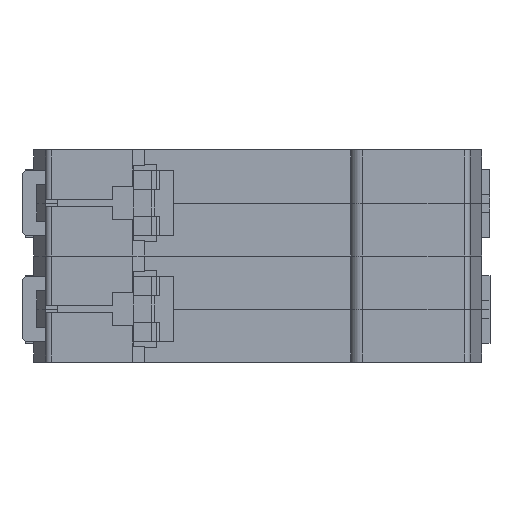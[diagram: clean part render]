
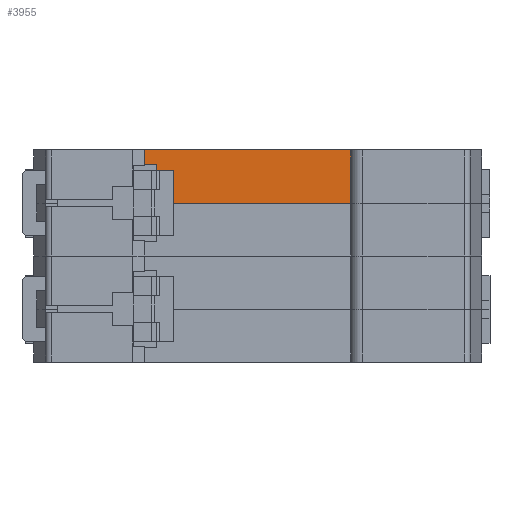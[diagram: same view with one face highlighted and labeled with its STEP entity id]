
A CAD part, front view. The second image highlights one B-rep face of the part: STEP entity #3955.
In plain terms, the highlighted planar face has unit normal (0, -1, 0).
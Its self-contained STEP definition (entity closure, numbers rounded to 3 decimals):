
#3883 = ORIENTED_EDGE ( 'NONE', *, *, #3885, .F. ) ;
#3885 = EDGE_CURVE ( 'NONE', #3960, #3975, #15126, .T. ) ;
#3945 = VERTEX_POINT ( 'NONE', #15179 ) ;
#3948 = EDGE_CURVE ( 'NONE', #19160, #3945, #15177, .T. ) ;
#3955 = ADVANCED_FACE ( 'NONE', ( #15173 ), #15178, .T. ) ;
#3956 = EDGE_LOOP ( 'NONE', ( #3957, #3962, #3964, #3967, #3970, #3883 ) ) ;
#3957 = ORIENTED_EDGE ( 'NONE', *, *, #3958, .F. ) ;
#3958 = EDGE_CURVE ( 'NONE', #19072, #3960, #15232, .T. ) ;
#3960 = VERTEX_POINT ( 'NONE', #15228 ) ;
#3962 = ORIENTED_EDGE ( 'NONE', *, *, #19071, .T. ) ;
#3964 = ORIENTED_EDGE ( 'NONE', *, *, #3948, .T. ) ;
#3967 = ORIENTED_EDGE ( 'NONE', *, *, #3968, .F. ) ;
#3968 = EDGE_CURVE ( 'NONE', #3969, #3945, #15227, .T. ) ;
#3969 = VERTEX_POINT ( 'NONE', #15223 ) ;
#3970 = ORIENTED_EDGE ( 'NONE', *, *, #3972, .F. ) ;
#3972 = EDGE_CURVE ( 'NONE', #3975, #3969, #15222, .T. ) ;
#3975 = VERTEX_POINT ( 'NONE', #15218 ) ;
#9598 = LINE ( 'NONE', #9714, #9713 ) ;
#9710 = CARTESIAN_POINT ( 'NONE',  ( -17.45, 0., -9.2 ) ) ;
#9712 = DIRECTION ( 'NONE',  ( 1., 0., 0. ) ) ;
#9713 = VECTOR ( 'NONE', #9712, 1000. ) ;
#9714 = CARTESIAN_POINT ( 'NONE',  ( -19.45, 0., -9.2 ) ) ;
#10018 = CARTESIAN_POINT ( 'NONE',  ( 17.35, 0., -9.2 ) ) ;
#15123 = DIRECTION ( 'NONE',  ( -1., 0., 0. ) ) ;
#15124 = VECTOR ( 'NONE', #15123, 1000. ) ;
#15125 = CARTESIAN_POINT ( 'NONE',  ( -19.45, 0., -2.5 ) ) ;
#15126 = LINE ( 'NONE', #15125, #15124 ) ;
#15173 = FACE_OUTER_BOUND ( 'NONE', #3956, .T. ) ;
#15174 = DIRECTION ( 'NONE',  ( 0., 0., 1. ) ) ;
#15175 = VECTOR ( 'NONE', #15174, 1000. ) ;
#15176 = CARTESIAN_POINT ( 'NONE',  ( 17.35, 0., -9.2 ) ) ;
#15177 = LINE ( 'NONE', #15176, #15175 ) ;
#15178 = PLANE ( 'NONE',  #15236 ) ;
#15179 = CARTESIAN_POINT ( 'NONE',  ( 17.35, 0., 0. ) ) ;
#15218 = CARTESIAN_POINT ( 'NONE',  ( -19.45, 0., -2.5 ) ) ;
#15219 = DIRECTION ( 'NONE',  ( 0., 0., 1. ) ) ;
#15220 = VECTOR ( 'NONE', #15219, 1000. ) ;
#15221 = CARTESIAN_POINT ( 'NONE',  ( -19.45, 0., -9.2 ) ) ;
#15222 = LINE ( 'NONE', #15221, #15220 ) ;
#15223 = CARTESIAN_POINT ( 'NONE',  ( -19.45, 0., 0. ) ) ;
#15224 = DIRECTION ( 'NONE',  ( 1., 0., 0. ) ) ;
#15225 = VECTOR ( 'NONE', #15224, 1000. ) ;
#15226 = CARTESIAN_POINT ( 'NONE',  ( -19.45, 0., 0. ) ) ;
#15227 = LINE ( 'NONE', #15226, #15225 ) ;
#15228 = CARTESIAN_POINT ( 'NONE',  ( -17.45, 0., -2.5 ) ) ;
#15229 = DIRECTION ( 'NONE',  ( 0., 0., 1. ) ) ;
#15230 = VECTOR ( 'NONE', #15229, 1000. ) ;
#15231 = CARTESIAN_POINT ( 'NONE',  ( -17.45, 0., -9.2 ) ) ;
#15232 = LINE ( 'NONE', #15231, #15230 ) ;
#15233 = DIRECTION ( 'NONE',  ( 0., 0., -1. ) ) ;
#15234 = DIRECTION ( 'NONE',  ( 0., -1., 0. ) ) ;
#15235 = CARTESIAN_POINT ( 'NONE',  ( -19.45, 0., -9.2 ) ) ;
#15236 = AXIS2_PLACEMENT_3D ( 'NONE', #15235, #15234, #15233 ) ;
#19071 = EDGE_CURVE ( 'NONE', #19072, #19160, #9598, .T. ) ;
#19072 = VERTEX_POINT ( 'NONE', #9710 ) ;
#19160 = VERTEX_POINT ( 'NONE', #10018 ) ;
